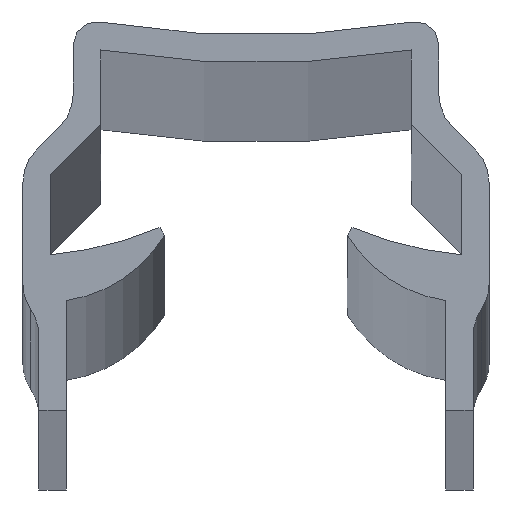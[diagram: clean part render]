
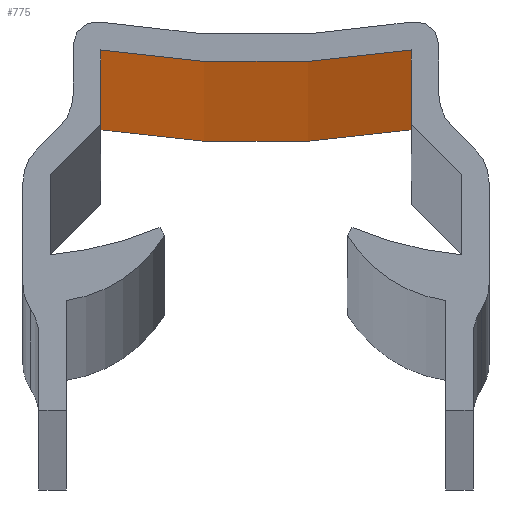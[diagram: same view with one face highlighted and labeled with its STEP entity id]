
A CAD part, top view. The second image highlights one B-rep face of the part: STEP entity #775.
In plain terms, the highlighted cylindrical face has radius 20.6 mm (diameter 41.2 mm), a partial arc.
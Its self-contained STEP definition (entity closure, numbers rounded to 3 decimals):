
#103=FACE_OUTER_BOUND('',#141,.T.);
#141=EDGE_LOOP('',(#644,#645,#646,#647));
#212=LINE('',#1316,#288);
#213=LINE('',#1320,#289);
#288=VECTOR('',#1055,1000.);
#289=VECTOR('',#1060,1000.);
#323=CIRCLE('',#832,20.6);
#334=CIRCLE('',#863,20.6);
#371=VERTEX_POINT('',#1218);
#372=VERTEX_POINT('',#1220);
#400=VERTEX_POINT('',#1314);
#401=VERTEX_POINT('',#1318);
#446=EDGE_CURVE('',#371,#372,#323,.T.);
#494=EDGE_CURVE('',#400,#371,#212,.T.);
#495=EDGE_CURVE('',#400,#401,#334,.T.);
#496=EDGE_CURVE('',#401,#372,#213,.T.);
#644=ORIENTED_EDGE('',*,*,#446,.F.);
#645=ORIENTED_EDGE('',*,*,#494,.F.);
#646=ORIENTED_EDGE('',*,*,#495,.T.);
#647=ORIENTED_EDGE('',*,*,#496,.T.);
#746=CYLINDRICAL_SURFACE('',#862,20.6);
#775=ADVANCED_FACE('',(#103),#746,.T.);
#832=AXIS2_PLACEMENT_3D('',#1221,#958,#959);
#862=AXIS2_PLACEMENT_3D('',#1317,#1056,#1057);
#863=AXIS2_PLACEMENT_3D('',#1319,#1058,#1059);
#958=DIRECTION('center_axis',(0.,0.,1.));
#959=DIRECTION('ref_axis',(1.,0.,0.));
#1055=DIRECTION('',(0.,0.,1.));
#1056=DIRECTION('center_axis',(0.,0.,1.));
#1057=DIRECTION('ref_axis',(1.,0.,0.));
#1058=DIRECTION('center_axis',(0.,0.,1.));
#1059=DIRECTION('ref_axis',(1.,0.,0.));
#1060=DIRECTION('',(0.,0.,1.));
#1218=CARTESIAN_POINT('',(-3.4,7.882,475.));
#1220=CARTESIAN_POINT('',(3.4,7.882,475.));
#1221=CARTESIAN_POINT('Origin',(0.,28.199,475.));
#1314=CARTESIAN_POINT('',(-3.4,7.882,-525.));
#1316=CARTESIAN_POINT('',(-3.4,7.882,-50.));
#1317=CARTESIAN_POINT('Origin',(0.,28.199,-50.));
#1318=CARTESIAN_POINT('',(3.4,7.882,-525.));
#1319=CARTESIAN_POINT('Origin',(0.,28.199,-525.));
#1320=CARTESIAN_POINT('',(3.4,7.882,-50.));
